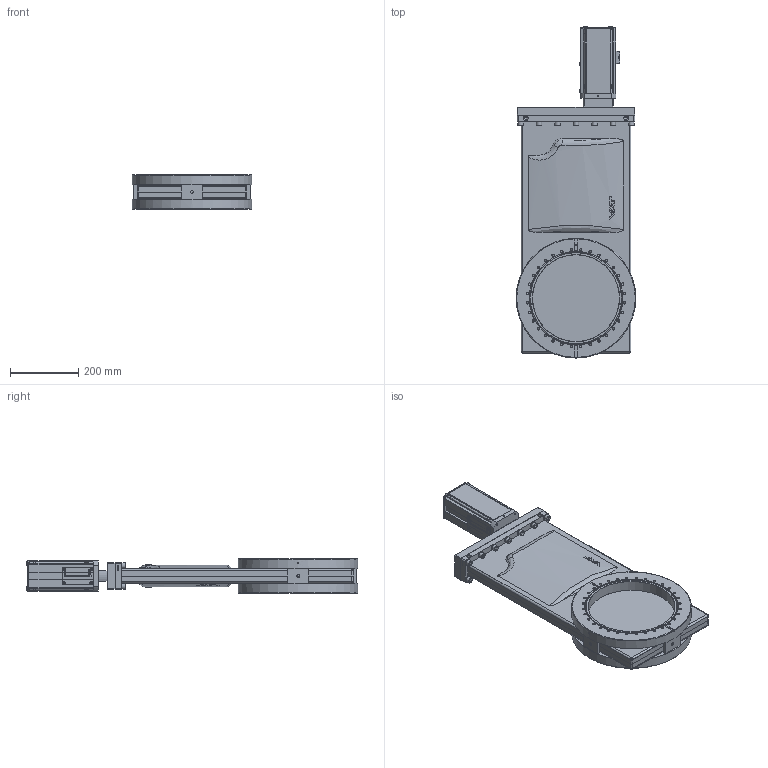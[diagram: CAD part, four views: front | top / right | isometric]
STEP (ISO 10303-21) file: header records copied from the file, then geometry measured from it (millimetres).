
FILE_DESCRIPTION(/* description */ (''),/* implementation_level */ '2;1');
FILE_NAME(/* name */ '1758974345_203.stp',/* time_stamp */ '2016-02-03T16:02:33+01:00',/* author */ (''),/* organization */ (''),/* preprocessor_version */ 'ST-DEVELOPER v15',/* originating_system */ 'SIEMENS PLM Software NX 9.0',/* authorisation */ '');
FILE_SCHEMA (('AP203_CONFIGURATION_CONTROLLED_3D_DESIGN_OF_MECHANICAL_PARTS_AND_ASSEMBLIES_MIM_LF { 1 0 10303 403 2 1 2}'));
Length unit declared in the file: millimetre
Products named in the file (33): 65664-01.2_25465ID; 209489_1.1; 436171_25422ID; 436171_25425ID; n-6024-526; N-7100-014_2.1; 94828-01.1; N-7100-012_3.1; N-6024-538.1; 497026; N-6024-571.1; 85949-01.1; 72770-01.4; 215427.3_25068ID; 215427.3_25060ID; 77900.1; 74628-01.3; 89473-01.1; 82418-01.1; 775041; 77876-01.1; 77858-01.1; 65313-01.1; N-5019-840.1; n-6134-410; 94827-r1.1; 497027; 94225-01.1; 94238-R1.4; 210260.1; 206810.2; 90208-r1; 497793
Assembly tree (70 placements, depth 4):
  497793
    90208-r1
      82418-01.1
      89473-01.1
      74628-01.3
    n-6134-410  x14
    N-5019-840.1  x14
    65313-01.1
    206810.2
      77900.1  x3
      210260.1
        436171_25425ID
        436171_25422ID
        209489_1.1
      215427.3_25060ID
      215427.3_25068ID
    77858-01.1
    77876-01.1
    94238-R1.4
      72770-01.4  x4
      85949-01.1
      N-6024-571.1  x4
      94225-01.1
        65664-01.2_25465ID
    775041
    497027
      497026
      N-6024-538.1  x4
    94827-r1.1
      N-7100-012_3.1
      94828-01.1
      N-7100-014_2.1
      n-6024-526  x2
Bounding box: 350 x 971.05 x 99.75 mm (x, y, z)
Volume: 7474065 mm3; surface area: 1772641.6 mm2
Topology: 91 solids, 91 shells, 1809 faces, 4541 edges, 3017 vertices
Faces by surface type: plane 999, cylinder 504, cone 165, extrusion 60, torus 47, sphere 18, bspline 16
Full cylindrical faces by diameter (mm): 0.5 x1, 2.125 x1, 2.5 x2, 2.65 x1, 3 x3, 3.3 x6, 3.65 x2, 4 x4, 4.2 x4, 4.3 x3, 4.31 x4, 4.35 x2, 4.5 x2, 4.625 x2, 5 x10, 5.9 x1, 6 x13, 6.25 x2, 6.6 x4, 6.909 x64, 7.05 x1, 7.982 x4, 8 x4, 8.36 x14, 8.4 x14, 8.5 x25, 8.611 x2, 9.1 x1, 10 x28, 10.15 x4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
Entity records: 50925 total; most frequent: CARTESIAN_POINT 12170, ORIENTED_EDGE 5808, DIRECTION 5747, EDGE_CURVE 2904, VERTEX_POINT 2187, AXIS2_PLACEMENT_3D 2185, EDGE_LOOP 1900, VECTOR 1377
